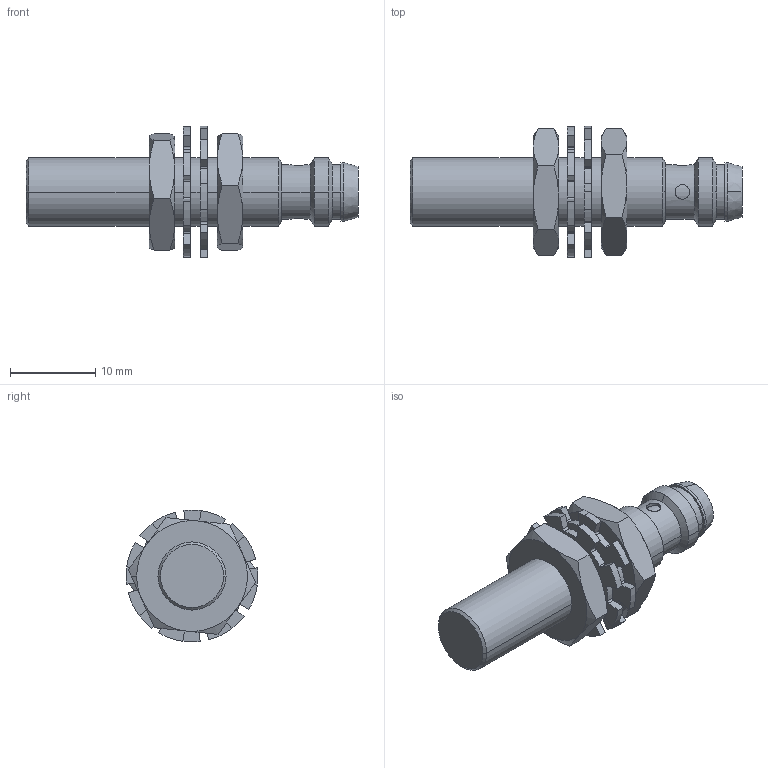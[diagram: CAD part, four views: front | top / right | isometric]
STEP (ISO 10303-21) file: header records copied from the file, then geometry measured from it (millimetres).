
FILE_DESCRIPTION (( 'STEP AP203' ), '1' );
FILE_NAME ('Bi-EM08-X-V1.step', '2017-01-11T19:28:45', ( 'Turck User' ), ( '' ), 'SwSTEP 2.0', 'SolidWorks 2015', '' );
FILE_SCHEMA (( 'CONFIG_CONTROL_DESIGN' ));
Length unit declared in the file: millimetre
Products named in the file (2): Bi-EM08-X-V1
Bounding box: 39 x 15.5 x 15.5 mm (x, y, z)
Volume: 2427.4 mm3; surface area: 2316.7 mm2
Topology: 3 solids, 3 shells, 207 faces, 562 edges, 364 vertices
Faces by surface type: cylinder 108, plane 58, cone 38, bspline 3
Entity records: 6990 total; most frequent: CARTESIAN_POINT 1530, DIRECTION 1156, ORIENTED_EDGE 1112, EDGE_CURVE 556, AXIS2_PLACEMENT_3D 462, VERTEX_POINT 364, CIRCLE 256, VECTOR 232
